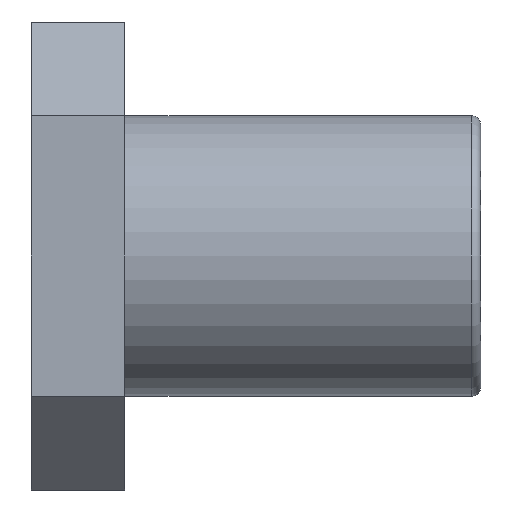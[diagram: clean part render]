
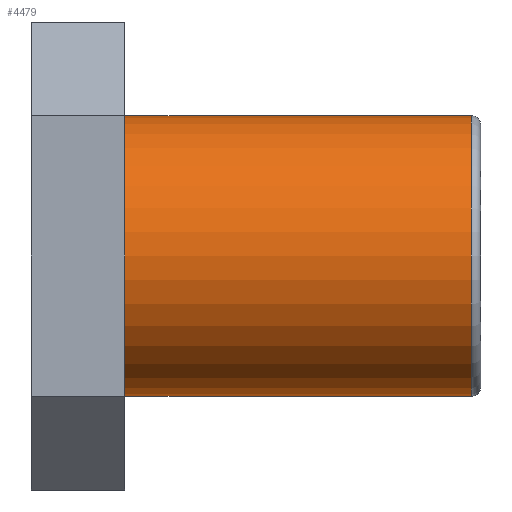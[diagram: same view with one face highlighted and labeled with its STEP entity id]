
A CAD part, left-side view. The second image highlights one B-rep face of the part: STEP entity #4479.
In plain terms, the highlighted cylindrical face has radius 7.5 mm (diameter 15 mm), a partial arc.
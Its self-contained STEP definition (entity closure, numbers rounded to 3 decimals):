
#50 = CARTESIAN_POINT ( 'NONE',  ( 0., 0., 7.5 ) ) ;
#52 = ORIENTED_EDGE ( 'NONE', *, *, #4769, .F. ) ;
#93 = EDGE_CURVE ( 'NONE', #2415, #5774, #130, .T. ) ;
#130 = LINE ( 'NONE', #7146, #5801 ) ;
#789 = ORIENTED_EDGE ( 'NONE', *, *, #2297, .T. ) ;
#926 = CARTESIAN_POINT ( 'NONE',  ( 0., -18.5, 0. ) ) ;
#1495 = DIRECTION ( 'NONE',  ( 0., 1., 0. ) ) ;
#1770 = DIRECTION ( 'NONE',  ( 0., 1., 0. ) ) ;
#2140 = CYLINDRICAL_SURFACE ( 'NONE', #5861, 7.5 ) ;
#2297 = EDGE_CURVE ( 'NONE', #2415, #3886, #3735, .T. ) ;
#2415 = VERTEX_POINT ( 'NONE', #2639 ) ;
#2507 = ORIENTED_EDGE ( 'NONE', *, *, #6464, .T. ) ;
#2520 = AXIS2_PLACEMENT_3D ( 'NONE', #5810, #1770, #6951 ) ;
#2639 = CARTESIAN_POINT ( 'NONE',  ( 0., -18.5, -7.5 ) ) ;
#3017 = LINE ( 'NONE', #6499, #4364 ) ;
#3619 = VERTEX_POINT ( 'NONE', #50 ) ;
#3626 = DIRECTION ( 'NONE',  ( 0., 1., 0. ) ) ;
#3656 = FACE_OUTER_BOUND ( 'NONE', #3943, .T. ) ;
#3735 = CIRCLE ( 'NONE', #7310, 7.5 ) ;
#3886 = VERTEX_POINT ( 'NONE', #6684 ) ;
#3943 = EDGE_LOOP ( 'NONE', ( #6189, #789, #2507, #52 ) ) ;
#4351 = CARTESIAN_POINT ( 'NONE',  ( 0., 0., -7.5 ) ) ;
#4364 = VECTOR ( 'NONE', #3626, 1000. ) ;
#4476 = CIRCLE ( 'NONE', #2520, 7.5 ) ;
#4479 = ADVANCED_FACE ( 'NONE', ( #3656 ), #2140, .T. ) ;
#4564 = CARTESIAN_POINT ( 'NONE',  ( 0., -19., 0. ) ) ;
#4769 = EDGE_CURVE ( 'NONE', #5774, #3619, #4476, .T. ) ;
#5423 = DIRECTION ( 'NONE',  ( 0., 0., 1. ) ) ;
#5689 = DIRECTION ( 'NONE',  ( 0., 1., 0. ) ) ;
#5774 = VERTEX_POINT ( 'NONE', #4351 ) ;
#5801 = VECTOR ( 'NONE', #7199, 1000. ) ;
#5810 = CARTESIAN_POINT ( 'NONE',  ( 0., 0., 0. ) ) ;
#5861 = AXIS2_PLACEMENT_3D ( 'NONE', #4564, #5689, #6851 ) ;
#6189 = ORIENTED_EDGE ( 'NONE', *, *, #93, .F. ) ;
#6464 = EDGE_CURVE ( 'NONE', #3886, #3619, #3017, .T. ) ;
#6499 = CARTESIAN_POINT ( 'NONE',  ( 0., -19., 7.5 ) ) ;
#6684 = CARTESIAN_POINT ( 'NONE',  ( 0., -18.5, 7.5 ) ) ;
#6851 = DIRECTION ( 'NONE',  ( 0., 0., 1. ) ) ;
#6951 = DIRECTION ( 'NONE',  ( 0., 0., 1. ) ) ;
#7146 = CARTESIAN_POINT ( 'NONE',  ( 0., -19., -7.5 ) ) ;
#7199 = DIRECTION ( 'NONE',  ( 0., 1., 0. ) ) ;
#7310 = AXIS2_PLACEMENT_3D ( 'NONE', #926, #1495, #5423 ) ;
